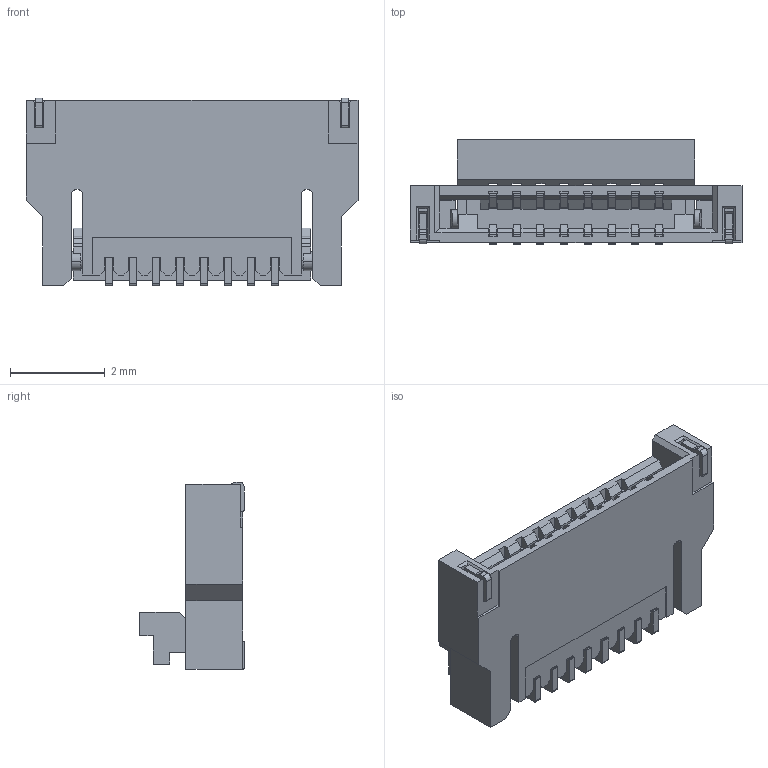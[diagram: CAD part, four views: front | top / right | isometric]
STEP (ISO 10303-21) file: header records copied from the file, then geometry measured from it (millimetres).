
FILE_DESCRIPTION((''),'2;1');
FILE_NAME('S-51539-010XX-001','2012-04-02T',('12114032'),(''),'PRO/ENGINEER BY PARAMETRIC TECHNOLOGY CORPORATION, 2009360','PRO/ENGINEER BY PARAMETRIC TECHNOLOGY CORPORATION, 2009360','');
FILE_SCHEMA(('CONFIG_CONTROL_DESIGN'));
Length unit declared in the file: millimetre
Products named in the file (1): S-51539-010XX-001
Bounding box: 7 x 2.2 x 3.96 mm (x, y, z)
Volume: 23.4 mm3; surface area: 182.6 mm2
Topology: 1 solids, 1 shells, 713 faces, 2506 edges, 1767 vertices
Faces by surface type: plane 536, cylinder 177
Entity records: 27578 total; most frequent: ORIENTED_EDGE 5012, CARTESIAN_POINT 5006, DIRECTION 4634, EDGE_CURVE 2506, VECTOR 1800, LINE 1800, VERTEX_POINT 1767, AXIS2_PLACEMENT_3D 1417
